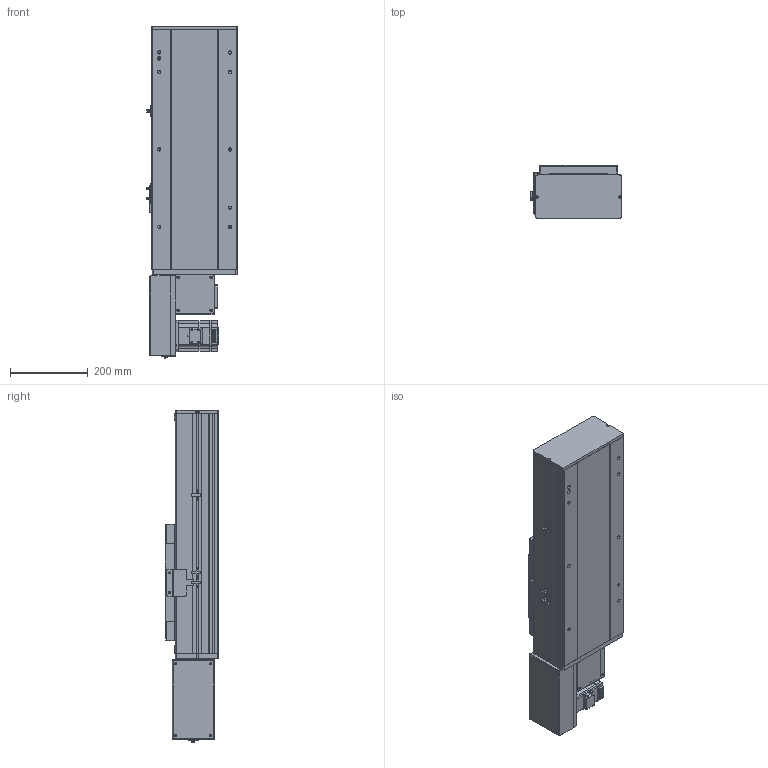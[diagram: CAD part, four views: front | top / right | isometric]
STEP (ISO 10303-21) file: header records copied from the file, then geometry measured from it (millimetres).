
FILE_DESCRIPTION (( 'STEP AP214' ), '1' );
FILE_NAME ('TPE22-L40-200-R-T75-C4.STEP', '2023-04-13T00:23:22', ( '' ), ( '' ), 'SwSTEP 2.0', 'SolidWorks 2020', '' );
FILE_SCHEMA (( 'AUTOMOTIVE_DESIGN' ));
Length unit declared in the file: millimetre
Products named in the file (10): 葩璃 TPE22 賑雄殤^TPE22-L40-R-T75-C4; 葩璃 pm-t65-672^TPE22-L40-R-T75-C4; 葩璃 詩湍150^TPE22-L40-R-T75-C4; TPE22-L40-200-R-T75-C4; 葩璃 MSMD08PC_P75^TPE22-L40-R-T75-C4; 葩璃 TPT22-L-009 萇儂啣^TPE22-L40-R-T75-C4; 葩璃 TPE22-L-002 耜裔ZTMZ-220-04^TPE22-L40-R-T75-C4; 葩璃 TPE22-L-007 々湍釱^TPE22-L40-R-T75-C4; hexagon head bolts-full thread gb_GB_FASTENER_BOLT_STBAB A M5X16-N; 葩璃 TPE22-L-001 菁釱MZ-220-01^TPE22-L40-R-T75-C4
Assembly tree (12 placements, depth 2):
  TPE22-L40-200-R-T75-C4
    葩璃 TPE22-L-001 菁釱MZ-220-01^TPE22-L40-R-T75-C4
    葩璃 TPE22-L-002 耜裔ZTMZ-220-04^TPE22-L40-R-T75-C4  x2
    葩璃 詩湍150^TPE22-L40-R-T75-C4
    葩璃 TPE22-L-007 々湍釱^TPE22-L40-R-T75-C4
    葩璃 TPT22-L-009 萇儂啣^TPE22-L40-R-T75-C4
    葩璃 TPE22 賑雄殤^TPE22-L40-R-T75-C4
    葩璃 pm-t65-672^TPE22-L40-R-T75-C4  x3
    葩璃 MSMD08PC_P75^TPE22-L40-R-T75-C4
    hexagon head bolts-full thread gb_GB_FASTENER_BOLT_STBAB A M5X16-N
Bounding box: 233.7 x 138 x 855.65 mm (x, y, z)
Volume: 9119901.1 mm3; surface area: 1588104.7 mm2
Topology: 22 solids, 22 shells, 1717 faces, 4519 edges, 2895 vertices
Faces by surface type: plane 1039, cylinder 556, cone 92, bspline 30
Entity records: 48398 total; most frequent: CARTESIAN_POINT 10101, DIRECTION 7610, ORIENTED_EDGE 7558, EDGE_CURVE 3779, VECTOR 2592, LINE 2592, AXIS2_PLACEMENT_3D 2509, VERTEX_POINT 2439
